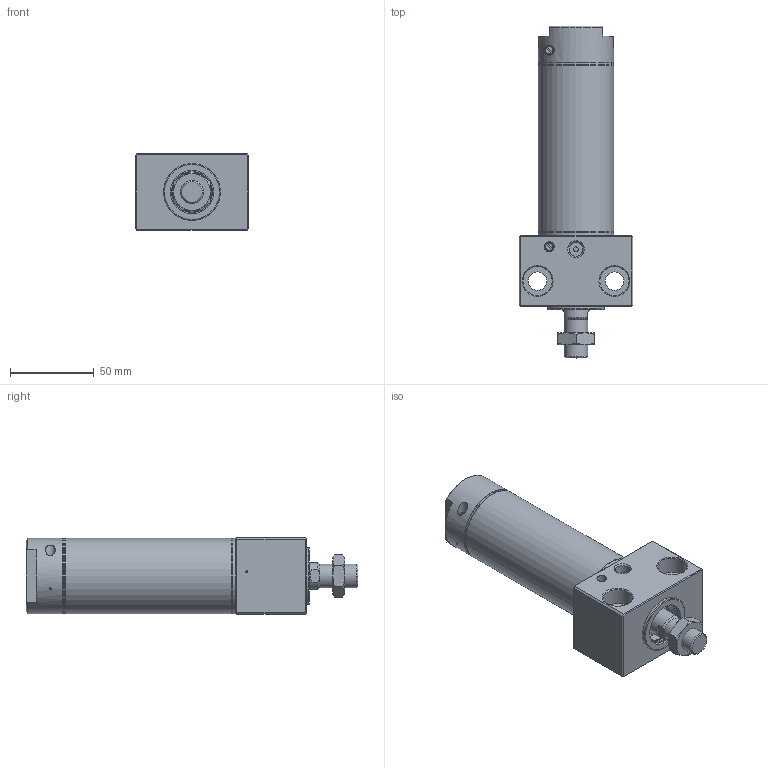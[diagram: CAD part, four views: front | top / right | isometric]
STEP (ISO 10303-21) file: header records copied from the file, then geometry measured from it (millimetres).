
FILE_DESCRIPTION((''),'2;1');
FILE_NAME('I:\3D電子目錄\氣缸\DBS\DBS\DBS40x50-C.stp','2007-10-08T08:48:58',('Administrator'),(''),'Autodesk Inventor 2008','Autodesk Inventor 2008','');
FILE_SCHEMA(('AUTOMOTIVE_DESIGN { 1 0 10303 214 1 1 1 1 }'));
Length unit declared in the file: millimetre
Products named in the file (1): DBS40x50-C
Bounding box: 68 x 198.6 x 46 mm (x, y, z)
Volume: 212416.2 mm3; surface area: 70044.2 mm2
Topology: 7 solids, 7 shells, 207 faces, 421 edges, 258 vertices
Faces by surface type: plane 92, cone 50, cylinder 46, bspline 16, torus 3
Full cylindrical faces by diameter (mm): 1.2 x1, 1.9 x2, 3 x2, 3.3 x1, 4.6 x2, 5 x2, 6 x2, 10.5 x1, 12 x1, 13 x1, 14 x2, 16 x1, 16.5 x1, 18 x1, 21 x2, 24 x3, 26 x2, 27.5 x1, 28 x2, 34 x1, 38 x2, 38.5 x2, 40 x1, 42.2 x6, 45 x4
Entity records: 5327 total; most frequent: CARTESIAN_POINT 1420, DIRECTION 818, ORIENTED_EDGE 630, AXIS2_PLACEMENT_3D 361, EDGE_LOOP 350, EDGE_CURVE 315, VERTEX_POINT 243, FACE_OUTER_BOUND 207
